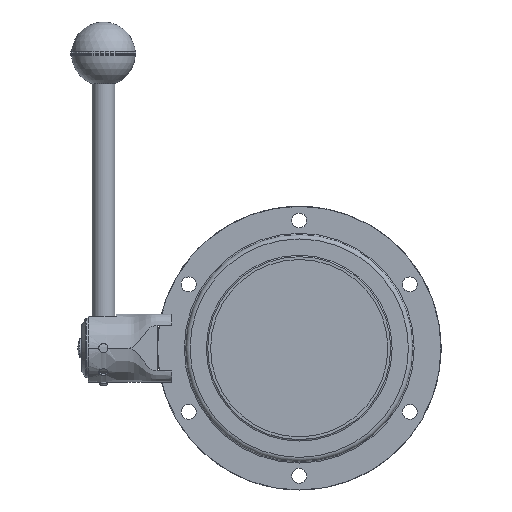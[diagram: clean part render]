
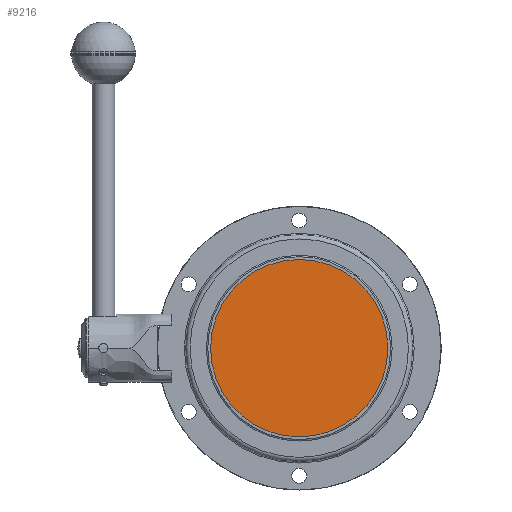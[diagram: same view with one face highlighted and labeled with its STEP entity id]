
A CAD part, left-side view. The second image highlights one B-rep face of the part: STEP entity #9216.
In plain terms, the highlighted planar face has unit normal (-1, 0, 0) as drawn and (1, 0, 0) by its records, which use the part's own axes.
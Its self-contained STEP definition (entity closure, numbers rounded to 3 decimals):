
#996=PLANE('',#10536);
#1532=FACE_OUTER_BOUND('',#2186,.T.);
#2186=EDGE_LOOP('',(#8579));
#3763=CIRCLE('',#10537,62.5);
#4648=VERTEX_POINT('',#30162);
#5964=EDGE_CURVE('',#4648,#4648,#3763,.T.);
#8579=ORIENTED_EDGE('',*,*,#5964,.F.);
#9216=ADVANCED_FACE('',(#1532),#996,.T.);
#10536=AXIS2_PLACEMENT_3D('',#30161,#13305,#13306);
#10537=AXIS2_PLACEMENT_3D('',#30163,#13307,#13308);
#13305=DIRECTION('center_axis',(1.,0.,0.));
#13306=DIRECTION('ref_axis',(0.,0.,-1.));
#13307=DIRECTION('center_axis',(-1.,0.,0.));
#13308=DIRECTION('ref_axis',(0.,1.,0.));
#30161=CARTESIAN_POINT('Origin',(14.9,0.,0.));
#30162=CARTESIAN_POINT('',(14.9,-62.5,0.));
#30163=CARTESIAN_POINT('Origin',(14.9,0.,0.));
